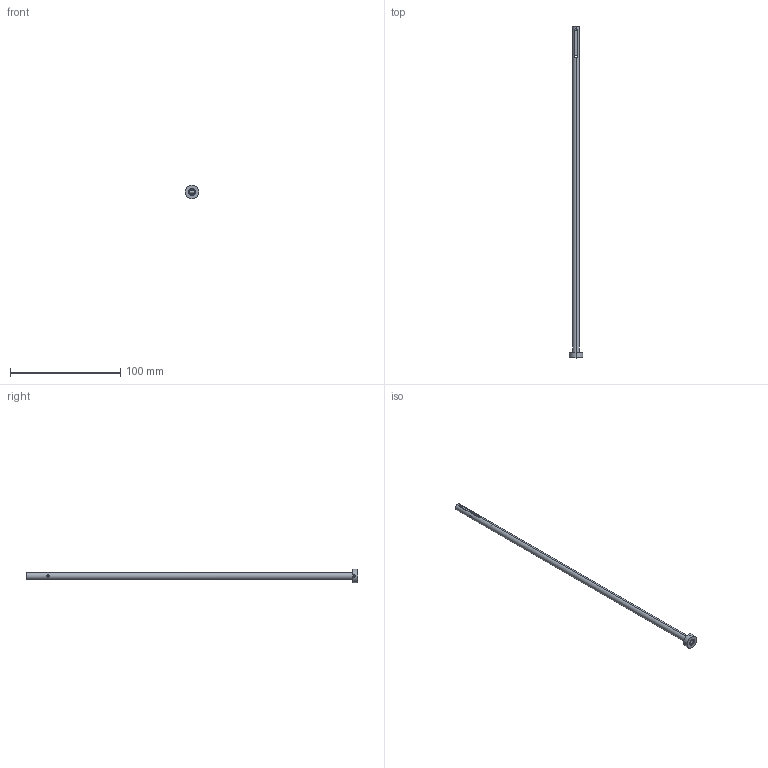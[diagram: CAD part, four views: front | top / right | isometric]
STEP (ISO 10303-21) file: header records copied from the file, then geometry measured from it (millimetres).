
FILE_DESCRIPTION (( 'STEP AP203' ), '1' );
FILE_NAME ('SGDE-605x300.STEP', '2017-01-10T15:36:26', ( 'Balzi' ), ( '' ), 'SwSTEP 2.0', 'SolidWorks 2016', '' );
FILE_SCHEMA (( 'CONFIG_CONTROL_DESIGN' ));
Length unit declared in the file: millimetre
Products named in the file (1): SGDE-605x300
Bounding box: 12 x 300.5 x 12 mm (x, y, z)
Volume: 4900.8 mm3; surface area: 10523.1 mm2
Topology: 1 solids, 1 shells, 84 faces, 234 edges, 154 vertices
Faces by surface type: cylinder 48, plane 32, cone 4
Entity records: 3313 total; most frequent: CARTESIAN_POINT 1077, ORIENTED_EDGE 468, DIRECTION 422, EDGE_CURVE 234, AXIS2_PLACEMENT_3D 155, VERTEX_POINT 154, VECTOR 112, LINE 112
